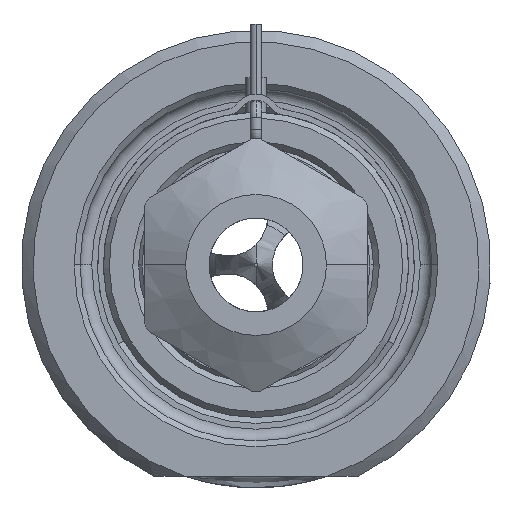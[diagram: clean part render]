
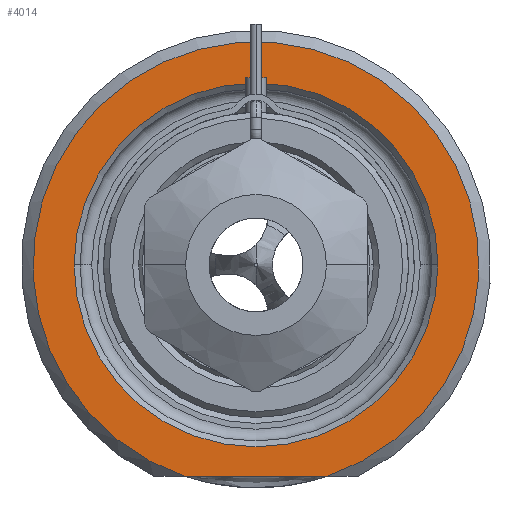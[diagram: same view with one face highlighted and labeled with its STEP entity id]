
A CAD part, front view. The second image highlights one B-rep face of the part: STEP entity #4014.
In plain terms, the highlighted planar face has unit normal (0, -1, 0).
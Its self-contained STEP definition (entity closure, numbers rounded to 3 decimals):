
#1=DIRECTION('',(1.,0.,0.));
#2=VECTOR('',#1,12.166);
#3=CARTESIAN_POINT('',(-6.083,0.,-18.));
#4=LINE('',#3,#2);
#5=CARTESIAN_POINT('',(0.,0.,0.));
#6=DIRECTION('',(0.,1.,0.));
#7=DIRECTION('',(-1.,0.,0.));
#8=AXIS2_PLACEMENT_3D('',#5,#6,#7);
#10=CARTESIAN_POINT('',(0.,0.,0.));
#11=DIRECTION('',(0.,1.,0.));
#12=DIRECTION('',(1.,0.,0.));
#13=AXIS2_PLACEMENT_3D('',#10,#11,#12);
#264=CARTESIAN_POINT('',(0.,0.,0.));
#265=DIRECTION('',(0.,-1.,0.));
#266=DIRECTION('',(0.32,0.,-0.947));
#267=AXIS2_PLACEMENT_3D('',#264,#265,#266);
#3384=CARTESIAN_POINT('',(-15.5,0.,0.));
#3385=CARTESIAN_POINT('',(15.5,0.,0.));
#3386=VERTEX_POINT('',#3384);
#3387=VERTEX_POINT('',#3385);
#3442=CARTESIAN_POINT('',(-6.083,0.,-18.));
#3443=CARTESIAN_POINT('',(6.083,0.,-18.));
#3444=VERTEX_POINT('',#3442);
#3445=VERTEX_POINT('',#3443);
#3997=CARTESIAN_POINT('',(0.,0.,0.));
#3998=DIRECTION('',(0.,-1.,0.));
#3999=DIRECTION('',(1.,0.,0.));
#4000=AXIS2_PLACEMENT_3D('',#3997,#3998,#3999);
#4001=PLANE('',#4000);
#4003=ORIENTED_EDGE('',*,*,#4002,.F.);
#4005=ORIENTED_EDGE('',*,*,#4004,.F.);
#4006=EDGE_LOOP('',(#4003,#4005));
#4007=FACE_OUTER_BOUND('',#4006,.F.);
#4009=ORIENTED_EDGE('',*,*,#4008,.F.);
#4011=ORIENTED_EDGE('',*,*,#4010,.F.);
#4012=EDGE_LOOP('',(#4009,#4011));
#4013=FACE_BOUND('',#4012,.F.);
#4014=ADVANCED_FACE('',(#4007,#4013),#4001,.T.);
#9=CIRCLE('',#8,15.5);
#14=CIRCLE('',#13,15.5);
#268=CIRCLE('',#267,19.);
#4002=EDGE_CURVE('',#3444,#3445,#4,.T.);
#4004=EDGE_CURVE('',#3445,#3444,#268,.T.);
#4008=EDGE_CURVE('',#3386,#3387,#9,.T.);
#4010=EDGE_CURVE('',#3387,#3386,#14,.T.);
